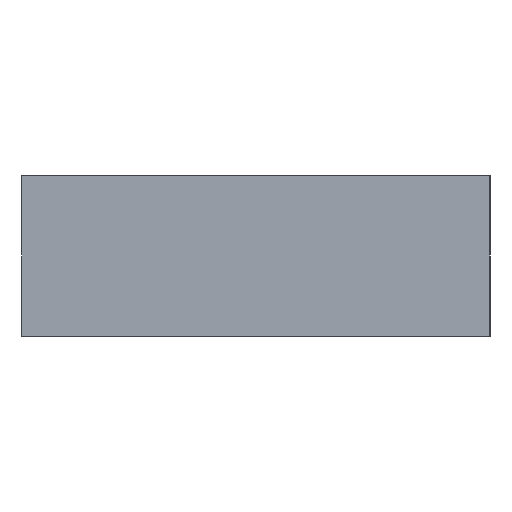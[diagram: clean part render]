
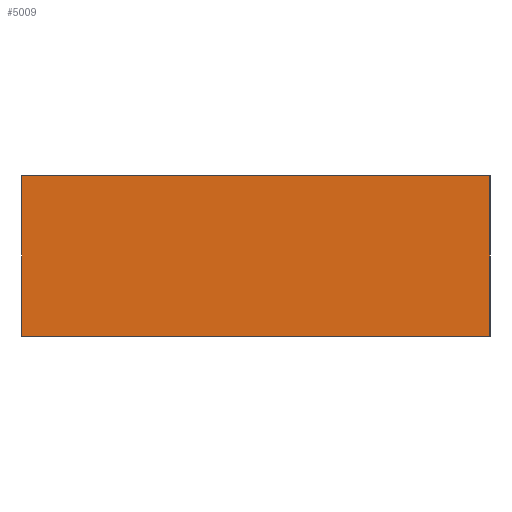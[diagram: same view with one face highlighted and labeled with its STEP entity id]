
A CAD part, left-side view. The second image highlights one B-rep face of the part: STEP entity #5009.
In plain terms, the highlighted planar face has unit normal (-1, 0, 0).
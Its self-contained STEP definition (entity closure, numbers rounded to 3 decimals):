
#39 = EDGE_CURVE('',#40,#42,#44,.T.);
#40 = VERTEX_POINT('',#41);
#41 = CARTESIAN_POINT('',(-26.,-5.,6.));
#42 = VERTEX_POINT('',#43);
#43 = CARTESIAN_POINT('',(-26.,30.,6.));
#44 = SURFACE_CURVE('',#45,(#49,#61),.PCURVE_S1.);
#45 = LINE('',#46,#47);
#46 = CARTESIAN_POINT('',(-26.,-5.,6.));
#47 = VECTOR('',#48,1.);
#48 = DIRECTION('',(0.,1.,0.));
#49 = PCURVE('',#50,#55);
#50 = PLANE('',#51);
#51 = AXIS2_PLACEMENT_3D('',#52,#53,#54);
#52 = CARTESIAN_POINT('',(-26.,-5.,6.));
#53 = DIRECTION('',(0.,0.,1.));
#54 = DIRECTION('',(1.,0.,0.));
#55 = DEFINITIONAL_REPRESENTATION('',(#56),#60);
#56 = LINE('',#57,#58);
#57 = CARTESIAN_POINT('',(0.,0.));
#58 = VECTOR('',#59,1.);
#59 = DIRECTION('',(0.,1.));
#60 = ( GEOMETRIC_REPRESENTATION_CONTEXT(2) 
PARAMETRIC_REPRESENTATION_CONTEXT() REPRESENTATION_CONTEXT('2D SPACE',''
  ) );
#61 = PCURVE('',#62,#67);
#62 = PLANE('',#63);
#63 = AXIS2_PLACEMENT_3D('',#64,#65,#66);
#64 = CARTESIAN_POINT('',(-26.,-5.,-6.));
#65 = DIRECTION('',(1.,0.,0.));
#66 = DIRECTION('',(0.,0.,1.));
#67 = DEFINITIONAL_REPRESENTATION('',(#68),#72);
#68 = LINE('',#69,#70);
#69 = CARTESIAN_POINT('',(12.,0.));
#70 = VECTOR('',#71,1.);
#71 = DIRECTION('',(0.,-1.));
#72 = ( GEOMETRIC_REPRESENTATION_CONTEXT(2) 
PARAMETRIC_REPRESENTATION_CONTEXT() REPRESENTATION_CONTEXT('2D SPACE',''
  ) );
#90 = PLANE('',#91);
#91 = AXIS2_PLACEMENT_3D('',#92,#93,#94);
#92 = CARTESIAN_POINT('',(-26.,-5.,-6.));
#93 = DIRECTION('',(0.,1.,0.));
#94 = DIRECTION('',(0.,0.,1.));
#467 = PLANE('',#468);
#468 = AXIS2_PLACEMENT_3D('',#469,#470,#471);
#469 = CARTESIAN_POINT('',(-26.,30.,-6.));
#470 = DIRECTION('',(0.,1.,0.));
#471 = DIRECTION('',(0.,0.,1.));
#5009 = ADVANCED_FACE('',(#5010),#62,.F.);
#5010 = FACE_BOUND('',#5011,.F.);
#5011 = EDGE_LOOP('',(#5012,#5013,#5036,#5064));
#5012 = ORIENTED_EDGE('',*,*,#39,.F.);
#5013 = ORIENTED_EDGE('',*,*,#5014,.F.);
#5014 = EDGE_CURVE('',#5015,#40,#5017,.T.);
#5015 = VERTEX_POINT('',#5016);
#5016 = CARTESIAN_POINT('',(-26.,-5.,-6.));
#5017 = SURFACE_CURVE('',#5018,(#5022,#5029),.PCURVE_S1.);
#5018 = LINE('',#5019,#5020);
#5019 = CARTESIAN_POINT('',(-26.,-5.,-6.));
#5020 = VECTOR('',#5021,1.);
#5021 = DIRECTION('',(0.,0.,1.));
#5022 = PCURVE('',#62,#5023);
#5023 = DEFINITIONAL_REPRESENTATION('',(#5024),#5028);
#5024 = LINE('',#5025,#5026);
#5025 = CARTESIAN_POINT('',(0.,0.));
#5026 = VECTOR('',#5027,1.);
#5027 = DIRECTION('',(1.,0.));
#5028 = ( GEOMETRIC_REPRESENTATION_CONTEXT(2) 
PARAMETRIC_REPRESENTATION_CONTEXT() REPRESENTATION_CONTEXT('2D SPACE',''
  ) );
#5029 = PCURVE('',#90,#5030);
#5030 = DEFINITIONAL_REPRESENTATION('',(#5031),#5035);
#5031 = LINE('',#5032,#5033);
#5032 = CARTESIAN_POINT('',(0.,0.));
#5033 = VECTOR('',#5034,1.);
#5034 = DIRECTION('',(1.,0.));
#5035 = ( GEOMETRIC_REPRESENTATION_CONTEXT(2) 
PARAMETRIC_REPRESENTATION_CONTEXT() REPRESENTATION_CONTEXT('2D SPACE',''
  ) );
#5036 = ORIENTED_EDGE('',*,*,#5037,.F.);
#5037 = EDGE_CURVE('',#5038,#5015,#5040,.T.);
#5038 = VERTEX_POINT('',#5039);
#5039 = CARTESIAN_POINT('',(-26.,30.,-6.));
#5040 = SURFACE_CURVE('',#5041,(#5045,#5052),.PCURVE_S1.);
#5041 = LINE('',#5042,#5043);
#5042 = CARTESIAN_POINT('',(-26.,30.,-6.));
#5043 = VECTOR('',#5044,1.);
#5044 = DIRECTION('',(0.,-1.,0.));
#5045 = PCURVE('',#62,#5046);
#5046 = DEFINITIONAL_REPRESENTATION('',(#5047),#5051);
#5047 = LINE('',#5048,#5049);
#5048 = CARTESIAN_POINT('',(0.,-35.));
#5049 = VECTOR('',#5050,1.);
#5050 = DIRECTION('',(0.,1.));
#5051 = ( GEOMETRIC_REPRESENTATION_CONTEXT(2) 
PARAMETRIC_REPRESENTATION_CONTEXT() REPRESENTATION_CONTEXT('2D SPACE',''
  ) );
#5052 = PCURVE('',#5053,#5058);
#5053 = PLANE('',#5054);
#5054 = AXIS2_PLACEMENT_3D('',#5055,#5056,#5057);
#5055 = CARTESIAN_POINT('',(-26.,-5.,-6.));
#5056 = DIRECTION('',(0.,0.,1.));
#5057 = DIRECTION('',(1.,0.,0.));
#5058 = DEFINITIONAL_REPRESENTATION('',(#5059),#5063);
#5059 = LINE('',#5060,#5061);
#5060 = CARTESIAN_POINT('',(0.,35.));
#5061 = VECTOR('',#5062,1.);
#5062 = DIRECTION('',(0.,-1.));
#5063 = ( GEOMETRIC_REPRESENTATION_CONTEXT(2) 
PARAMETRIC_REPRESENTATION_CONTEXT() REPRESENTATION_CONTEXT('2D SPACE',''
  ) );
#5064 = ORIENTED_EDGE('',*,*,#5065,.T.);
#5065 = EDGE_CURVE('',#5038,#42,#5066,.T.);
#5066 = SURFACE_CURVE('',#5067,(#5071,#5078),.PCURVE_S1.);
#5067 = LINE('',#5068,#5069);
#5068 = CARTESIAN_POINT('',(-26.,30.,-6.));
#5069 = VECTOR('',#5070,1.);
#5070 = DIRECTION('',(0.,0.,1.));
#5071 = PCURVE('',#62,#5072);
#5072 = DEFINITIONAL_REPRESENTATION('',(#5073),#5077);
#5073 = LINE('',#5074,#5075);
#5074 = CARTESIAN_POINT('',(0.,-35.));
#5075 = VECTOR('',#5076,1.);
#5076 = DIRECTION('',(1.,0.));
#5077 = ( GEOMETRIC_REPRESENTATION_CONTEXT(2) 
PARAMETRIC_REPRESENTATION_CONTEXT() REPRESENTATION_CONTEXT('2D SPACE',''
  ) );
#5078 = PCURVE('',#467,#5079);
#5079 = DEFINITIONAL_REPRESENTATION('',(#5080),#5084);
#5080 = LINE('',#5081,#5082);
#5081 = CARTESIAN_POINT('',(0.,0.));
#5082 = VECTOR('',#5083,1.);
#5083 = DIRECTION('',(1.,0.));
#5084 = ( GEOMETRIC_REPRESENTATION_CONTEXT(2) 
PARAMETRIC_REPRESENTATION_CONTEXT() REPRESENTATION_CONTEXT('2D SPACE',''
  ) );
